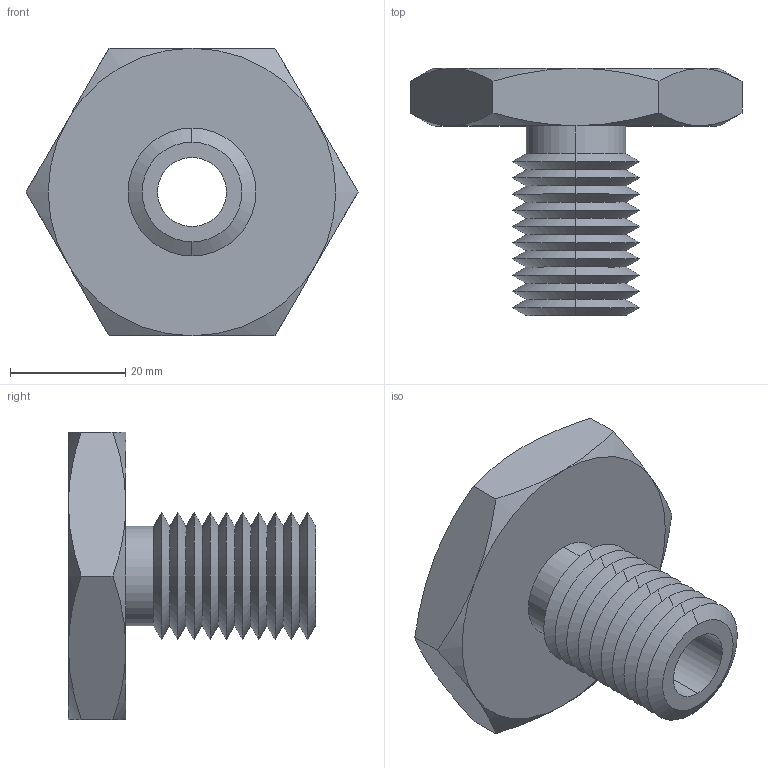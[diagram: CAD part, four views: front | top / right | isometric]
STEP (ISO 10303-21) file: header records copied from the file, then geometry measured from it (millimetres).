
FILE_DESCRIPTION (( 'STEP AP203' ), '1' );
FILE_NAME ('63302.W5088_M12x1,7.step', '2013-12-08T11:36:23', ( 'User' ), ( '' ), 'SwSTEP 2.0', 'SolidWorks 2009', '' );
FILE_SCHEMA (( 'CONFIG_CONTROL_DESIGN' ));
Length unit declared in the file: millimetre
Products named in the file (1): 63302.W5088_M12x1,7
Bounding box: 57.73 x 43 x 50 mm (x, y, z)
Volume: 26306.9 mm3; surface area: 10988 mm2
Topology: 1 solids, 1 shells, 67 faces, 138 edges, 74 vertices
Faces by surface type: cone 54, plane 9, cylinder 4
Entity records: 1939 total; most frequent: CARTESIAN_POINT 464, DIRECTION 312, ORIENTED_EDGE 276, EDGE_CURVE 138, AXIS2_PLACEMENT_3D 130, VERTEX_POINT 74, EDGE_LOOP 70, ADVANCED_FACE 67
